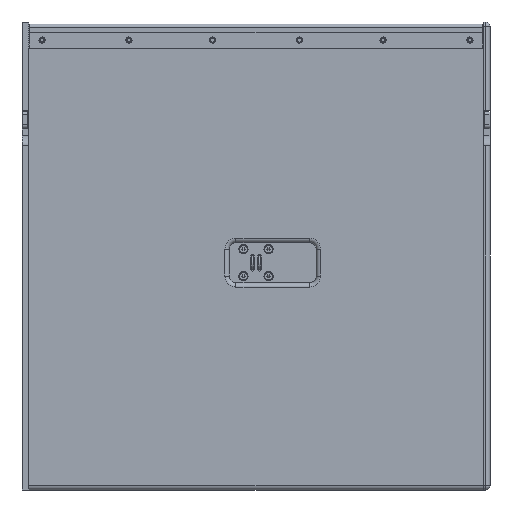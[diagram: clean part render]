
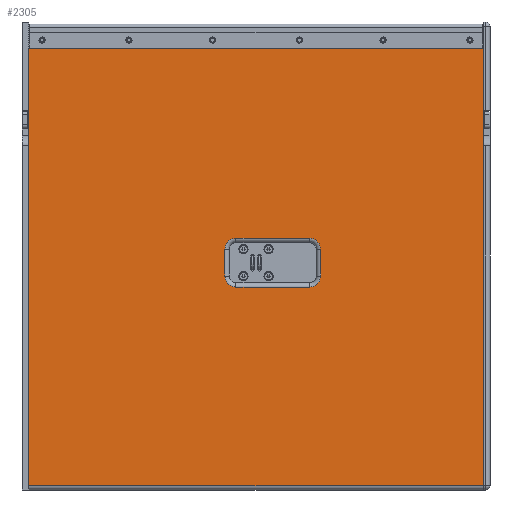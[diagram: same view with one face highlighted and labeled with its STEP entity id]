
A CAD part, front view. The second image highlights one B-rep face of the part: STEP entity #2305.
In plain terms, the highlighted planar face has unit normal (0, -1, 0).
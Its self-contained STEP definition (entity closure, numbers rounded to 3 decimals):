
#684 = LINE ( 'NONE', #11160, #693 ) ;
#686 = VECTOR ( 'NONE', #11210, 1000. ) ;
#693 = VECTOR ( 'NONE', #11185, 1000. ) ;
#699 = VECTOR ( 'NONE', #11173, 1000. ) ;
#702 = VECTOR ( 'NONE', #11209, 1000. ) ;
#708 = CIRCLE ( 'NONE', #2044, 16.5 ) ;
#714 = LINE ( 'NONE', #11169, #730 ) ;
#719 = LINE ( 'NONE', #11208, #702 ) ;
#722 = LINE ( 'NONE', #11207, #686 ) ;
#727 = CIRCLE ( 'NONE', #2017, 16.5 ) ;
#729 = LINE ( 'NONE', #11150, #699 ) ;
#730 = VECTOR ( 'NONE', #11184, 1000. ) ;
#737 = CIRCLE ( 'NONE', #2012, 16.5 ) ;
#744 = CIRCLE ( 'NONE', #2047, 16.5 ) ;
#766 = VECTOR ( 'NONE', #11211, 1000. ) ;
#769 = LINE ( 'NONE', #11224, #766 ) ;
#780 = LINE ( 'NONE', #8902, #781 ) ;
#781 = VECTOR ( 'NONE', #8896, 1000. ) ;
#932 = VECTOR ( 'NONE', #9148, 1000. ) ;
#942 = LINE ( 'NONE', #9182, #932 ) ;
#2012 = AXIS2_PLACEMENT_3D ( 'NONE', #9428, #8889, #8894 ) ;
#2017 = AXIS2_PLACEMENT_3D ( 'NONE', #11113, #11130, #11115 ) ;
#2044 = AXIS2_PLACEMENT_3D ( 'NONE', #11178, #11158, #11180 ) ;
#2047 = AXIS2_PLACEMENT_3D ( 'NONE', #11230, #11227, #11231 ) ;
#2305 = ADVANCED_FACE ( 'NONE', ( #10176, #10195 ), #7165, .T. ) ;
#3311 = VERTEX_POINT ( 'NONE', #5822 ) ;
#3313 = VERTEX_POINT ( 'NONE', #5846 ) ;
#3325 = VERTEX_POINT ( 'NONE', #5818 ) ;
#3342 = VERTEX_POINT ( 'NONE', #5810 ) ;
#3350 = VERTEX_POINT ( 'NONE', #5853 ) ;
#3354 = VERTEX_POINT ( 'NONE', #5855 ) ;
#3356 = VERTEX_POINT ( 'NONE', #5835 ) ;
#3358 = VERTEX_POINT ( 'NONE', #5838 ) ;
#3360 = VERTEX_POINT ( 'NONE', #5800 ) ;
#3404 = VERTEX_POINT ( 'NONE', #5865 ) ;
#3406 = VERTEX_POINT ( 'NONE', #5868 ) ;
#3416 = VERTEX_POINT ( 'NONE', #5899 ) ;
#4457 = ORIENTED_EDGE ( 'NONE', *, *, #8624, .T. ) ;
#4515 = ORIENTED_EDGE ( 'NONE', *, *, #8673, .F. ) ;
#4522 = ORIENTED_EDGE ( 'NONE', *, *, #8635, .F. ) ;
#4537 = ORIENTED_EDGE ( 'NONE', *, *, #8641, .T. ) ;
#4543 = ORIENTED_EDGE ( 'NONE', *, *, #8644, .F. ) ;
#4556 = ORIENTED_EDGE ( 'NONE', *, *, #8614, .T. ) ;
#4559 = ORIENTED_EDGE ( 'NONE', *, *, #8621, .T. ) ;
#4562 = ORIENTED_EDGE ( 'NONE', *, *, #8618, .T. ) ;
#4579 = ORIENTED_EDGE ( 'NONE', *, *, #8649, .T. ) ;
#4600 = ORIENTED_EDGE ( 'NONE', *, *, #8616, .T. ) ;
#4613 = ORIENTED_EDGE ( 'NONE', *, *, #8657, .T. ) ;
#4617 = ORIENTED_EDGE ( 'NONE', *, *, #8777, .T. ) ;
#5800 = CARTESIAN_POINT ( 'NONE',  ( -46.5, 0., -340. ) ) ;
#5810 = CARTESIAN_POINT ( 'NONE',  ( -30., 0., -396.5 ) ) ;
#5818 = CARTESIAN_POINT ( 'NONE',  ( -30., 0., -323.5 ) ) ;
#5822 = CARTESIAN_POINT ( 'NONE',  ( 96.5, 0., -380. ) ) ;
#5835 = CARTESIAN_POINT ( 'NONE',  ( -46.5, 0., -380. ) ) ;
#5838 = CARTESIAN_POINT ( 'NONE',  ( 340., 0., -693.5 ) ) ;
#5846 = CARTESIAN_POINT ( 'NONE',  ( 80., 0., -396.5 ) ) ;
#5853 = CARTESIAN_POINT ( 'NONE',  ( -340., 0., -40. ) ) ;
#5855 = CARTESIAN_POINT ( 'NONE',  ( 80., 0., -323.5 ) ) ;
#5865 = CARTESIAN_POINT ( 'NONE',  ( 96.5, 0., -340. ) ) ;
#5868 = CARTESIAN_POINT ( 'NONE',  ( -340., 0., -693.5 ) ) ;
#5899 = CARTESIAN_POINT ( 'NONE',  ( 340., 0., -40. ) ) ;
#7146 = DIRECTION ( 'NONE',  ( 0., 0., -1. ) ) ;
#7165 = PLANE ( 'NONE',  #8224 ) ;
#7176 = CARTESIAN_POINT ( 'NONE',  ( -340., 0., -700. ) ) ;
#7183 = DIRECTION ( 'NONE',  ( 0., -1., 0. ) ) ;
#8224 = AXIS2_PLACEMENT_3D ( 'NONE', #7176, #7183, #7146 ) ;
#8465 = EDGE_LOOP ( 'NONE', ( #4457, #4562, #4559, #4556, #4617, #4613, #4600, #4579 ) ) ;
#8536 = EDGE_LOOP ( 'NONE', ( #4522, #4537, #4515, #4543 ) ) ;
#8614 = EDGE_CURVE ( 'NONE', #3360, #3325, #727, .T. ) ;
#8616 = EDGE_CURVE ( 'NONE', #3404, #3311, #684, .T. ) ;
#8618 = EDGE_CURVE ( 'NONE', #3342, #3356, #708, .T. ) ;
#8621 = EDGE_CURVE ( 'NONE', #3356, #3360, #729, .T. ) ;
#8624 = EDGE_CURVE ( 'NONE', #3313, #3342, #714, .T. ) ;
#8635 = EDGE_CURVE ( 'NONE', #3406, #3350, #722, .T. ) ;
#8641 = EDGE_CURVE ( 'NONE', #3406, #3358, #719, .T. ) ;
#8644 = EDGE_CURVE ( 'NONE', #3350, #3416, #769, .T. ) ;
#8649 = EDGE_CURVE ( 'NONE', #3311, #3313, #744, .T. ) ;
#8657 = EDGE_CURVE ( 'NONE', #3354, #3404, #737, .T. ) ;
#8673 = EDGE_CURVE ( 'NONE', #3416, #3358, #780, .T. ) ;
#8777 = EDGE_CURVE ( 'NONE', #3325, #3354, #942, .T. ) ;
#8889 = DIRECTION ( 'NONE',  ( 0., 1., 0. ) ) ;
#8894 = DIRECTION ( 'NONE',  ( 0., 0., -1. ) ) ;
#8896 = DIRECTION ( 'NONE',  ( 0., 0., -1. ) ) ;
#8902 = CARTESIAN_POINT ( 'NONE',  ( 340., 0., 0. ) ) ;
#9148 = DIRECTION ( 'NONE',  ( 1., 0., 0. ) ) ;
#9182 = CARTESIAN_POINT ( 'NONE',  ( 80., 0., -323.5 ) ) ;
#9428 = CARTESIAN_POINT ( 'NONE',  ( 80., 0., -340. ) ) ;
#10176 = FACE_OUTER_BOUND ( 'NONE', #8536, .T. ) ;
#10195 = FACE_BOUND ( 'NONE', #8465, .T. ) ;
#11113 = CARTESIAN_POINT ( 'NONE',  ( -30., 0., -340. ) ) ;
#11115 = DIRECTION ( 'NONE',  ( 0., 0., -1. ) ) ;
#11130 = DIRECTION ( 'NONE',  ( 0., 1., 0. ) ) ;
#11150 = CARTESIAN_POINT ( 'NONE',  ( -46.5, 0., -340. ) ) ;
#11158 = DIRECTION ( 'NONE',  ( 0., 1., 0. ) ) ;
#11160 = CARTESIAN_POINT ( 'NONE',  ( 96.5, 0., -380. ) ) ;
#11169 = CARTESIAN_POINT ( 'NONE',  ( -30., 0., -396.5 ) ) ;
#11173 = DIRECTION ( 'NONE',  ( 0., 0., 1. ) ) ;
#11178 = CARTESIAN_POINT ( 'NONE',  ( -30., 0., -380. ) ) ;
#11180 = DIRECTION ( 'NONE',  ( 0., 0., -1. ) ) ;
#11184 = DIRECTION ( 'NONE',  ( -1., 0., 0. ) ) ;
#11185 = DIRECTION ( 'NONE',  ( 0., 0., -1. ) ) ;
#11207 = CARTESIAN_POINT ( 'NONE',  ( -340., 0., 0. ) ) ;
#11208 = CARTESIAN_POINT ( 'NONE',  ( 340., 0., -693.5 ) ) ;
#11209 = DIRECTION ( 'NONE',  ( 1., 0., 0. ) ) ;
#11210 = DIRECTION ( 'NONE',  ( 0., 0., 1. ) ) ;
#11211 = DIRECTION ( 'NONE',  ( 1., 0., 0. ) ) ;
#11224 = CARTESIAN_POINT ( 'NONE',  ( -340., 0., -40. ) ) ;
#11227 = DIRECTION ( 'NONE',  ( 0., 1., 0. ) ) ;
#11230 = CARTESIAN_POINT ( 'NONE',  ( 80., 0., -380. ) ) ;
#11231 = DIRECTION ( 'NONE',  ( 0., 0., -1. ) ) ;
